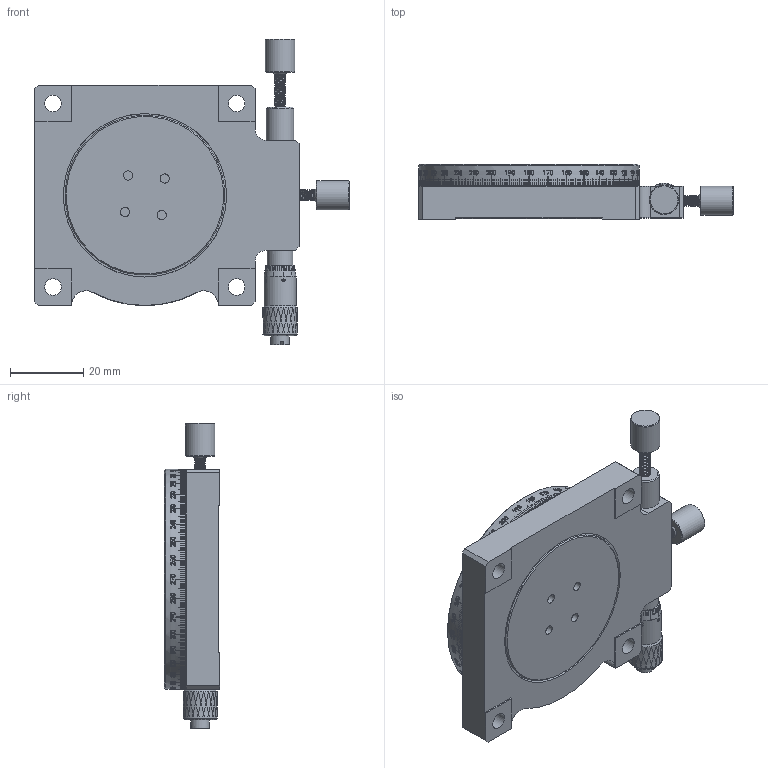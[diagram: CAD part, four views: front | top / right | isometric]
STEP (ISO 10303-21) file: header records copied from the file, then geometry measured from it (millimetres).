
FILE_DESCRIPTION (( 'STEP AP203' ), '1' );
FILE_NAME ('BPBR60.STEP', '2024-07-09T11:18:25', ( 'Windows User' ), ( 'P R C' ), 'SwSTEP 2.0', 'SolidWorks 2024', '' );
FILE_SCHEMA (( 'CONFIG_CONTROL_DESIGN' ));
Products named in the file (1): BPBR60
Bounding box: 85.64 x 15 x 83.2 mm (x, y, z)
Volume: 52629.5 mm3; surface area: 33051.7 mm2
Topology: 11 solids, 11 shells, 1292 faces, 4267 edges, 3258 vertices
Faces by surface type: cylinder 743, bspline 307, plane 140, cone 101, torus 1
Full cylindrical faces by diameter (mm): 1.25 x4, 1.6 x2, 1.7 x4, 2 x2, 2.05 x3, 2.5 x12, 3.3 x5, 3.5 x2, 4.5 x5, 5 x3, 5.7 x1, 6 x4, 7 x2, 7.5 x1, 8 x6, 8.7 x1, 20 x1, 21.3 x1, 29 x1, 30 x2, 30.1 x1, 36 x2, 43.5 x1, 44.5 x1, 49.5 x2, 54 x1, 60 x2
Entity records: 98087 total; most frequent: CARTESIAN_POINT 62580, ORIENTED_EDGE 8226, DIRECTION 6180, EDGE_CURVE 4113, VERTEX_POINT 3215, AXIS2_PLACEMENT_3D 2535, EDGE_LOOP 1740, CIRCLE 1549
